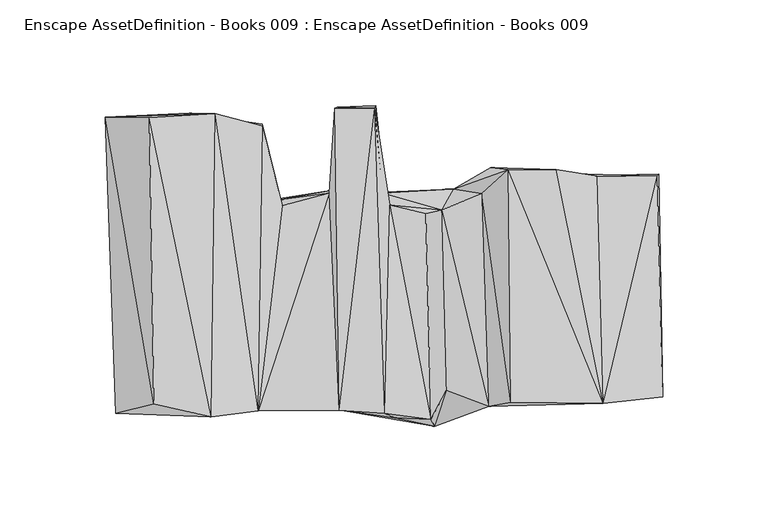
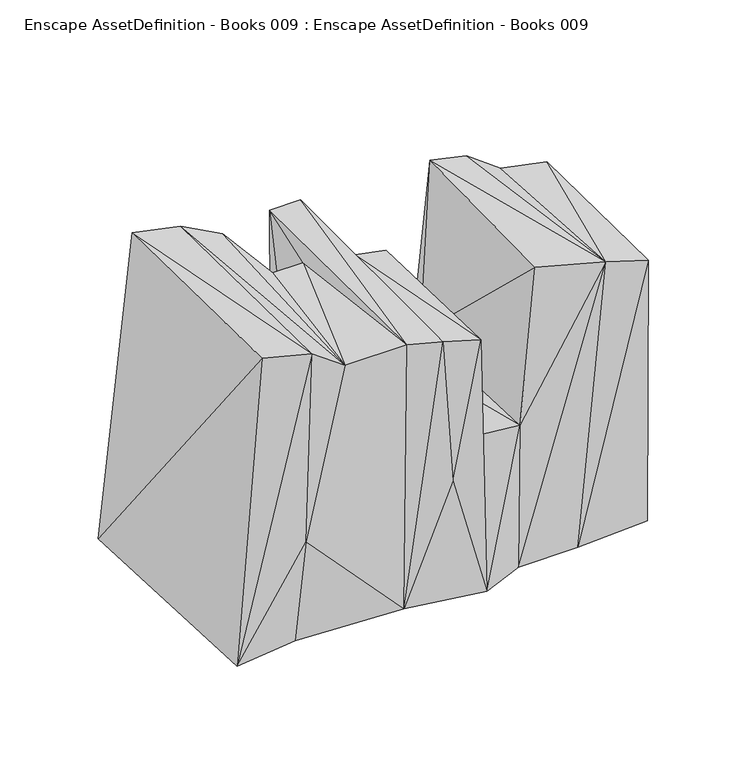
"""IFC4 building model written with IfcOpenShell, lengths in millimetres: geographic element geometry, Enscape AssetDefinition - Books 009 : Enscape AssetDefinition - Books 009."""

from ifc_helpers import new_model, si_unit, origin, place, context, project, spatial, triangles, source, transform, mapped, element, save


def enscape_assetdefinition_books_009_enscape_assetdefinition_d1216bc1(model_context):
    return source(origin(), model_context, "Body", "Tessellation", [
        triangles([(-88.8438231, -61.9677246, 0.0), (-23.4837137, -65.5760028, 0.0), (-54.8002434, 31.516715, 0.0), (-58.2858455, 69.7681524, 0.0), (-49.930001, 34.5038169, 29.2125973), (-26.1126412, 38.3417185, 103.8716031), (-26.4688558, 37.2004592, 165.3260824), (-49.4108875, 34.1279768, 114.1841822), (-21.7428702, -65.8968816, 172.319896), (-23.9360957, 77.3988185, 174.4316676), (-22.8115164, 77.9198896, 0.0), (-26.1518966, 36.5312027, 0.0), (-4.8810327, 77.5008744, 174.4934916), (-1.0578515, 37.0159705, 69.2461003), (-0.1275702, -67.3717916, 167.8657166), (-4.5424811, 78.6862945, 0.0), (19.1738047, 27.5021753, 163.3301105), (2.1549554, 31.3106365, 164.0288142), (26.8299802, 29.0408691, 91.9830392), (45.8732674, 36.8098943, 94.2115823), (21.6820318, -70.1596983, 163.0484779), (29.0477387, -56.5479519, 90.0469019), (4.599397, -69.5169323, 76.3959183), (49.109625, -64.1864619, 93.9741149), (103.2671069, -62.5545438, 181.094742), (58.4320665, 48.3285045, 195.663275), (59.6145434, -62.1286614, 192.3474345), (32.3959673, 39.0041009, 0.0), (23.4748843, -73.6227318, 0.0), (50.1409847, 49.2950925, 0.0), (78.1063335, 44.8978454, 0.0), (54.087805, 0.5946735, 0.0), (81.1778302, 48.3432247, 190.6320959), (100.4909773, 45.2707469, 177.7524133), (94.6492463, 46.0155552, 76.8728332), (76.9101129, -53.9680858, 0.0), (48.9859861, -62.723329, 0.0), (86.0618163, -62.2925368, 0.0), (130.9959558, -59.3819722, 0.0), (131.4385251, -59.6459459, 170.3837678), (129.5485333, 46.0616779, 0.0), (129.0382628, 45.0391567, 172.2404132), (-0.0628038, 37.5723728, 0.0), (-84.7635398, -66.6897838, 66.017591), (-60.2474899, -66.2894085, 172.7143669), (-127.754702, -67.4905253, 0.0), (-109.6053828, -62.8391195, 192.6379146), (-82.4751257, -69.1303007, 189.9010177), (-80.5811915, 74.6953044, 185.2358954), (-111.7367934, 72.7935264, 193.0363096), (-92.8848555, 75.0937176, 0.0), (-132.5523288, 73.1840867, 0.0), (-58.0238384, 68.8162801, 176.0900692), (-48.8927551, 31.18405, 170.2581578)], [[45, 54, 53], [45, 53, 49], [53, 51, 49], [53, 4, 51], [49, 52, 50], [51, 52, 49], [4, 52, 51], [52, 47, 50], [49, 48, 45], [50, 48, 49], [47, 48, 50], [46, 47, 52], [47, 46, 48], [52, 1, 46], [1, 52, 4], [48, 44, 45], [1, 44, 46], [48, 46, 44], [2, 23, 15], [44, 2, 45], [44, 1, 2], [43, 2, 12], [43, 29, 2], [2, 29, 23], [25, 40, 42], [40, 39, 41], [40, 41, 42], [39, 38, 41], [38, 40, 25], [38, 39, 40], [37, 38, 25], [37, 36, 38], [36, 37, 32], [41, 38, 31], [41, 31, 42], [38, 36, 31], [36, 32, 31], [31, 35, 42], [34, 25, 42], [34, 42, 35], [34, 35, 31], [34, 31, 33], [33, 25, 34], [30, 33, 31], [31, 32, 30], [32, 37, 30], [30, 37, 28], [37, 29, 28], [28, 29, 43], [30, 28, 26], [30, 26, 33], [26, 25, 33], [27, 25, 26], [26, 20, 27], [28, 20, 26], [29, 37, 24], [24, 25, 27], [24, 37, 25], [24, 27, 20], [24, 22, 29], [23, 29, 21], [15, 23, 21], [21, 29, 22], [28, 19, 20], [19, 22, 24], [21, 22, 19], [19, 24, 20], [21, 19, 17], [18, 15, 21], [18, 21, 17], [19, 18, 17], [19, 14, 18], [28, 43, 14], [28, 14, 19], [16, 14, 43], [43, 12, 11], [43, 11, 16], [13, 15, 18], [14, 16, 13], [18, 14, 13], [16, 11, 13], [13, 9, 15], [9, 2, 15], [45, 2, 9], [13, 11, 10], [10, 9, 13], [11, 12, 10], [7, 9, 10], [54, 45, 7], [45, 9, 7], [8, 54, 7], [53, 54, 8], [53, 8, 4], [10, 6, 7], [12, 6, 10], [6, 8, 7], [6, 5, 8], [4, 8, 5], [12, 5, 6], [4, 5, 3], [12, 2, 3], [3, 2, 1], [12, 3, 5], [3, 1, 4]]),
    ])


if __name__ == "__main__":
    model = new_model("IFC4")
    model_context = context("Model", 3, world=origin())
    ifc_project = project(units=[si_unit("LENGTHUNIT", "METRE", prefix="MILLI")], contexts=[model_context])
    site = spatial("IfcSite", under=ifc_project)
    building = spatial("IfcBuilding", under=site)
    placement = place(None, origin())
    enscape_assetdefinition_books_009_enscape_assetdefinition_shape = enscape_assetdefinition_books_009_enscape_assetdefinition_d1216bc1(model_context)
    element("IfcGeographicElement", 1, ObjectType="Enscape AssetDefinition - Books 009 : Enscape AssetDefinition - Books 009", at=placement, inside=building, context=model_context, shape_type="MappedRepresentation", body=[
        mapped(enscape_assetdefinition_books_009_enscape_assetdefinition_shape, transform((0.0, 0.0, 0.0), x_axis=(1.0, 0.0, 0.0), y_axis=(0.0, 1.0, 0.0), z_axis=(0.0, 0.0, 1.0))),
    ])
    save(model, "model.ifc")
